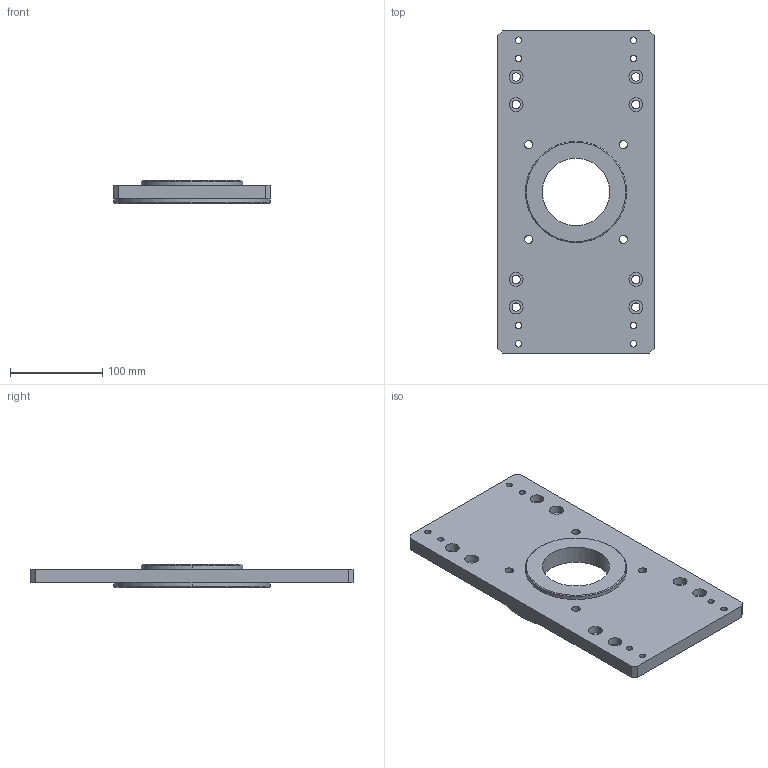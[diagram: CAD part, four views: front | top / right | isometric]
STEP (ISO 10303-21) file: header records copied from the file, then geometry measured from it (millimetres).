
FILE_DESCRIPTION (( 'STEP AP203' ), '1' );
FILE_NAME ('YWSD-2026-03-01-04=001 驱动连接板.STEP', '2026-07-24T07:32:57', ( 'Windows 用户' ), ( '' ), 'SwSTEP 2.0', 'SolidWorks 2024', '' );
FILE_SCHEMA (( 'CONFIG_CONTROL_DESIGN' ));
Length unit declared in the file: millimetre
Products named in the file (1): YWSD-2026-03-01-04=001 驱动连接板
Bounding box: 170 x 350 x 25 mm (x, y, z)
Volume: 900430 mm3; surface area: 143864.4 mm2
Topology: 1 solids, 1 shells, 104 faces, 254 edges, 166 vertices
Faces by surface type: cylinder 72, plane 26, cone 6
Entity records: 3289 total; most frequent: DIRECTION 614, CARTESIAN_POINT 525, ORIENTED_EDGE 508, AXIS2_PLACEMENT_3D 255, EDGE_CURVE 254, VERTEX_POINT 166, EDGE_LOOP 160, CIRCLE 150
